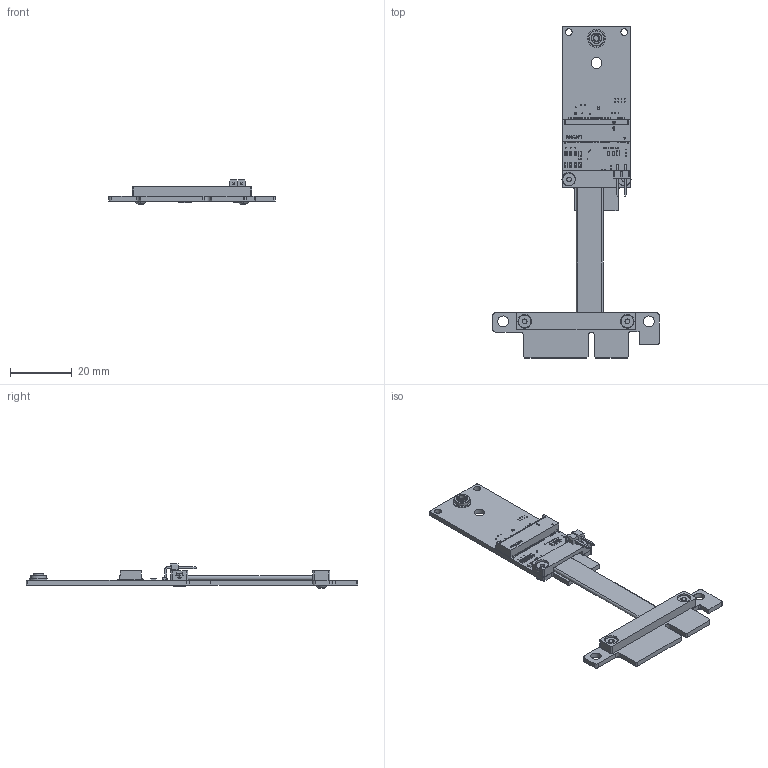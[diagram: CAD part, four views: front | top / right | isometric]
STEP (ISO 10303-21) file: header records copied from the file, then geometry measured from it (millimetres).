
FILE_DESCRIPTION(('Open CASCADE Model'),'2;1');
FILE_NAME('Open CASCADE Shape Model','2023-05-14T22:18:25',('Author'),( 'Open CASCADE'),'Open CASCADE STEP processor 7.5','Open CASCADE 7.5' ,'Unknown');
FILE_SCHEMA(('AUTOMOTIVE_DESIGN { 1 0 10303 214 1 1 1 1 }'));
Length unit declared in the file: millimetre
Products named in the file (39): PCB; Board; Open CASCADE STEP translator 7.5 2.1.1; C2; C0603_060; C3; C4; C5; CN1; APCI0018 20221012; D1 VCC; LED AP1608; D2 ERR; D3 ACC; R1; 0603_RES; Capsule; Encapsulation; TopCover; R2; R3; C1; Free-Models; R5S 3.0 20220803; G0030_RGB14277081; Hexagon nut ISO 4032 (DIN 934) - M2_RGB9411503; M2 nuc_RGB6740479; G0038; G0030_RGB12967653; bg075-02x-1-0600-0300-0150-x-x_revd; BG075-Insulator; BG075-1-0600-0300-0150-pin; Tape28x5_RGB0; R2S 3.0 20220802; G0033_RGB9411503; cable13pin-43s-20161231_RGB4078660
Assembly tree (63 placements, depth 4):
  PCB
    Board
      Open CASCADE STEP translator 7.5 2.1.1
    C2
      C0603_060
      C0603_060
      C0603_060
    C3
      C0603_060
      C0603_060
      C0603_060
    C4
      C0603_060
      C0603_060
      C0603_060
    C5
      C0603_060
      C0603_060
      C0603_060
    CN1
      APCI0018 20221012  x2
      APCI0018 20221012
    D1 VCC
      LED AP1608
    D2 ERR
      LED AP1608
    D3 ACC
      LED AP1608
    R1
      0603_RES
        Capsule
        Encapsulation  x2
        TopCover
    R2
      0603_RES
        Capsule
        Encapsulation  x2
        TopCover
    R3
      0603_RES
        Capsule
        Encapsulation  x2
        TopCover
    C1
      C0603_060
      C0603_060
      C0603_060
    Free-Models
      R5S 3.0 20220803
      G0030_RGB14277081  x2
      Hexagon nut ISO 4032 (DIN 934) - M2_RGB9411503  x4
      M2 nuc_RGB6740479
      G0038
      G0030_RGB12967653
      bg075-02x-1-0600-0300-0150-x-x_revd
        BG075-Insulator  x2
        BG075-1-0600-0300-0150-pin  x2
      Tape28x5_RGB0
      R2S 3.0 20220802
      G0033_RGB9411503  x2
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Bounding box: 54.1 x 107.72 x 7.91 mm (x, y, z)
Volume: 5306.5 mm3; surface area: 10565.5 mm2
Topology: 91 solids, 106 shells, 6312 faces, 17911 edges, 11804 vertices
Faces by surface type: plane 3925, cylinder 1644, bspline 579, cone 62, torus 52, sphere 46, revolution 4
Full cylindrical faces by diameter (mm): 0.254 x69, 0.6 x60, 0.9 x2, 1.1 x1, 1.6 x1, 2 x1, 2.2 x10, 3.2 x1, 3.3 x1, 3.4 x1, 3.5 x4, 4.4 x2, 5 x1
Entity records: 160346 total; most frequent: CARTESIAN_POINT 32601, ORIENTED_EDGE 21516, DIRECTION 19812, EDGE_CURVE 10758, LINE 7874, VECTOR 7874, VERTEX_POINT 7123, AXIS2_PLACEMENT_3D 5968
